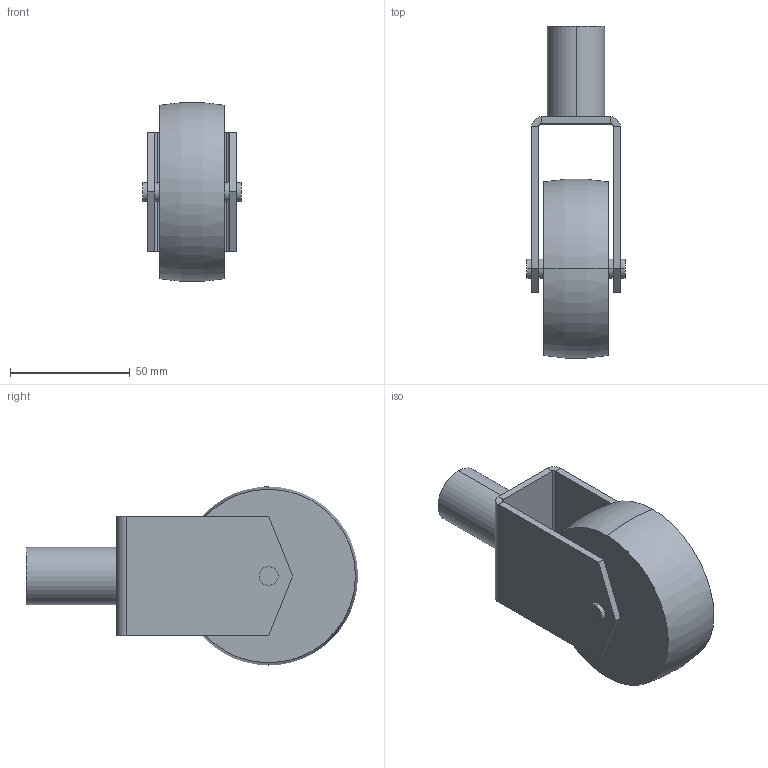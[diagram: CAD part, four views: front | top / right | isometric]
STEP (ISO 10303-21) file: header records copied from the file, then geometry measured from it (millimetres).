
FILE_DESCRIPTION (( 'STEP AP214' ), '1' );
FILE_NAME ('SGK75_SGKB75.step', '2024-02-15T04:33:27', ( 'catia' ), ( 'HP Inc.' ), 'SwSTEP 2.0', 'SolidWorks 2021', '' );
FILE_SCHEMA (( 'AUTOMOTIVE_DESIGN' ));
Length unit declared in the file: millimetre
Products named in the file (1): SGK75_SGKB75
Bounding box: 41 x 138.86 x 74.73 mm (x, y, z)
Volume: 159189.5 mm3; surface area: 35303.5 mm2
Topology: 1 solids, 1 shells, 41 faces, 86 edges, 52 vertices
Faces by surface type: plane 25, cylinder 14, torus 2
Entity records: 1124 total; most frequent: DIRECTION 204, CARTESIAN_POINT 180, ORIENTED_EDGE 172, EDGE_CURVE 86, AXIS2_PLACEMENT_3D 76, VECTOR 52, LINE 52, VERTEX_POINT 52
